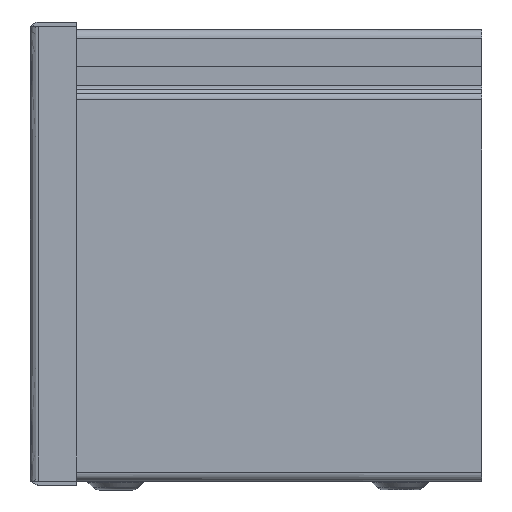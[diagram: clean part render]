
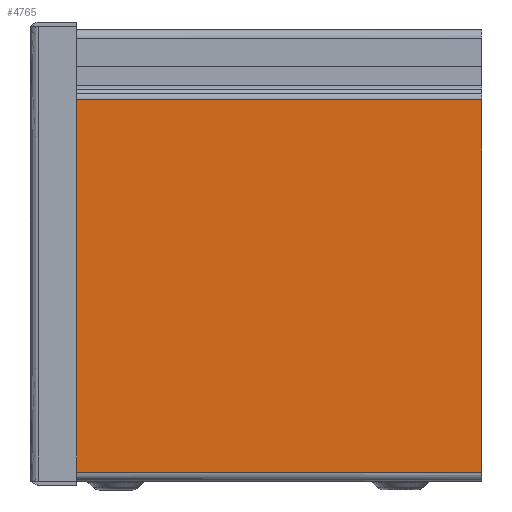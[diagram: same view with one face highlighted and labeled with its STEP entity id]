
A CAD part, left-side view. The second image highlights one B-rep face of the part: STEP entity #4765.
In plain terms, the highlighted free-form (B-spline) face has degree [1, 1] with [2, 2] control points.
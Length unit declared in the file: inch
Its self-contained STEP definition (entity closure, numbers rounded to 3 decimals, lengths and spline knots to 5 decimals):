
#4693=CARTESIAN_POINT('V66',(-0.055,0.06,
   0.));
#4694=VERTEX_POINT('V66',#4693);
#4708=CARTESIAN_POINT('V67',(-0.055,0.06,
   -6.));
#4709=VERTEX_POINT('V67',#4708);
#4710=CARTESIAN_POINT('E90',(-0.055,0.06,
   0.));
#4711=CARTESIAN_POINT('E90',(-0.055,0.06,
   -6.));
#4712=QUASI_UNIFORM_CURVE('E90',1,(#4710,#4711),.POLYLINE_FORM.,.F.,
   .U.);
#4713=EDGE_CURVE('E90',#4694,#4709,#4712,.T.);
#4738=CARTESIAN_POINT('F41',(-0.055,5.05515,
   0.));
#4739=CARTESIAN_POINT('F41',(-0.055,5.05515,
   -6.));
#4740=CARTESIAN_POINT('F41',(-0.055,0.06,
   0.));
#4741=CARTESIAN_POINT('F41',(-0.055,0.06,
   -6.));
#4742=B_SPLINE_SURFACE_WITH_KNOTS('F41',1,1,((#4738,#4740),(#4739,
   #4741)),.PLANE_SURF.,.F.,.F.,.U.,(2,2),(2,2),(
   0.00024,1.20083),(0.00024,
   0.99976),.UNSPECIFIED.);
#4743=CARTESIAN_POINT('V64',(-0.055,5.05515,
   -6.));
#4744=VERTEX_POINT('V64',#4743);
#4745=CARTESIAN_POINT('E107',(-0.055,5.05515,
   -6.));
#4746=CARTESIAN_POINT('E107',(-0.055,0.06,
   -6.));
#4747=QUASI_UNIFORM_CURVE('E107',1,(#4745,#4746),.POLYLINE_FORM.,.F.,
   .U.);
#4748=EDGE_CURVE('E107',#4744,#4709,#4747,.T.);
#4749=ORIENTED_EDGE('E107',*,*,#4748,.T.);
#4750=ORIENTED_EDGE('E90',*,*,#4713,.F.);
#4751=CARTESIAN_POINT('V61',(-0.055,5.05515,
   0.));
#4752=VERTEX_POINT('V61',#4751);
#4753=CARTESIAN_POINT('E108',(-0.055,0.06,
   0.0));
#4754=CARTESIAN_POINT('E108',(-0.055,5.05515,
   0.0));
#4755=QUASI_UNIFORM_CURVE('E108',1,(#4753,#4754),.POLYLINE_FORM.,.F.,
   .U.);
#4756=EDGE_CURVE('E108',#4694,#4752,#4755,.T.);
#4757=ORIENTED_EDGE('E108',*,*,#4756,.T.);
#4758=CARTESIAN_POINT('E88',(-0.055,5.05515,
   -6.));
#4759=CARTESIAN_POINT('E88',(-0.055,5.05515,
   0.));
#4760=QUASI_UNIFORM_CURVE('E88',1,(#4758,#4759),.POLYLINE_FORM.,.F.,
   .U.);
#4761=EDGE_CURVE('E88',#4744,#4752,#4760,.T.);
#4762=ORIENTED_EDGE('E88',*,*,#4761,.F.);
#4763=EDGE_LOOP('F41',(#4749,#4750,#4757,#4762));
#4764=FACE_OUTER_BOUND('F41',#4763,.T.);
#4765=ADVANCED_FACE('F41',(#4764),#4742,.T.);
